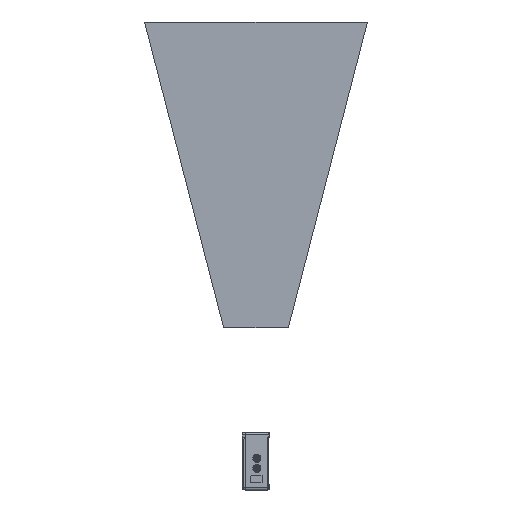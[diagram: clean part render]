
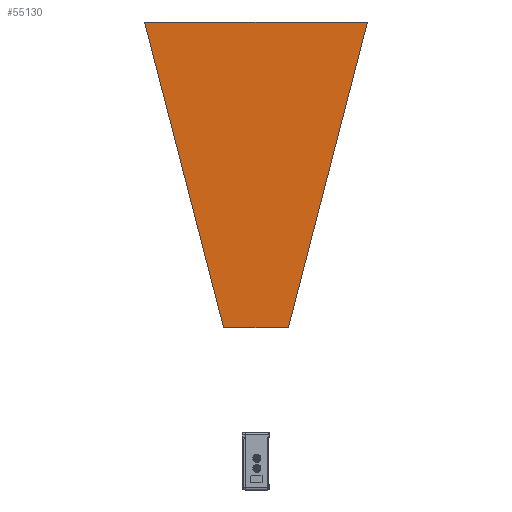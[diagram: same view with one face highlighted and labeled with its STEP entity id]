
A CAD part, left-side view. The second image highlights one B-rep face of the part: STEP entity #55130.
In plain terms, the highlighted planar face has unit normal (-1, 0, 0) by its records, which use the part's own axes.
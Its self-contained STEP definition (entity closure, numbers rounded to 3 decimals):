
#55091=DIRECTION('',(0.,-0.968,-0.25));
#55092=VECTOR('',#55091,691.975);
#55093=CARTESIAN_POINT('',(0.,902.9,244.));
#55094=LINE('',#55093,#55092);
#55095=DIRECTION('',(0.,0.,-1.));
#55096=VECTOR('',#55095,142.);
#55097=CARTESIAN_POINT('',(0.,232.9,71.));
#55098=LINE('',#55097,#55096);
#55099=DIRECTION('',(0.,0.968,-0.25));
#55100=VECTOR('',#55099,691.975);
#55101=CARTESIAN_POINT('',(0.,232.9,-71.));
#55102=LINE('',#55101,#55100);
#55103=DIRECTION('',(0.,0.,1.));
#55104=VECTOR('',#55103,488.);
#55105=CARTESIAN_POINT('',(0.,902.9,-244.));
#55106=LINE('',#55105,#55104);
#55107=CARTESIAN_POINT('',(0.,232.9,71.));
#55108=CARTESIAN_POINT('',(0.,902.9,244.));
#55109=VERTEX_POINT('',#55107);
#55110=VERTEX_POINT('',#55108);
#55111=CARTESIAN_POINT('',(0.,902.9,-244.));
#55112=VERTEX_POINT('',#55111);
#55113=CARTESIAN_POINT('',(0.,232.9,-71.));
#55114=VERTEX_POINT('',#55113);
#55115=CARTESIAN_POINT('',(0.,0.,0.));
#55116=DIRECTION('',(-1.,0.,0.));
#55117=DIRECTION('',(0.,0.,-1.));
#55118=AXIS2_PLACEMENT_3D('',#55115,#55116,#55117);
#55119=PLANE('',#55118);
#55121=ORIENTED_EDGE('',*,*,#55120,.T.);
#55123=ORIENTED_EDGE('',*,*,#55122,.T.);
#55125=ORIENTED_EDGE('',*,*,#55124,.T.);
#55127=ORIENTED_EDGE('',*,*,#55126,.T.);
#55128=EDGE_LOOP('',(#55121,#55123,#55125,#55127));
#55129=FACE_OUTER_BOUND('',#55128,.F.);
#55130=ADVANCED_FACE('',(#55129),#55119,.T.);
#55120=EDGE_CURVE('',#55110,#55109,#55094,.T.);
#55122=EDGE_CURVE('',#55109,#55114,#55098,.T.);
#55124=EDGE_CURVE('',#55114,#55112,#55102,.T.);
#55126=EDGE_CURVE('',#55112,#55110,#55106,.T.);
